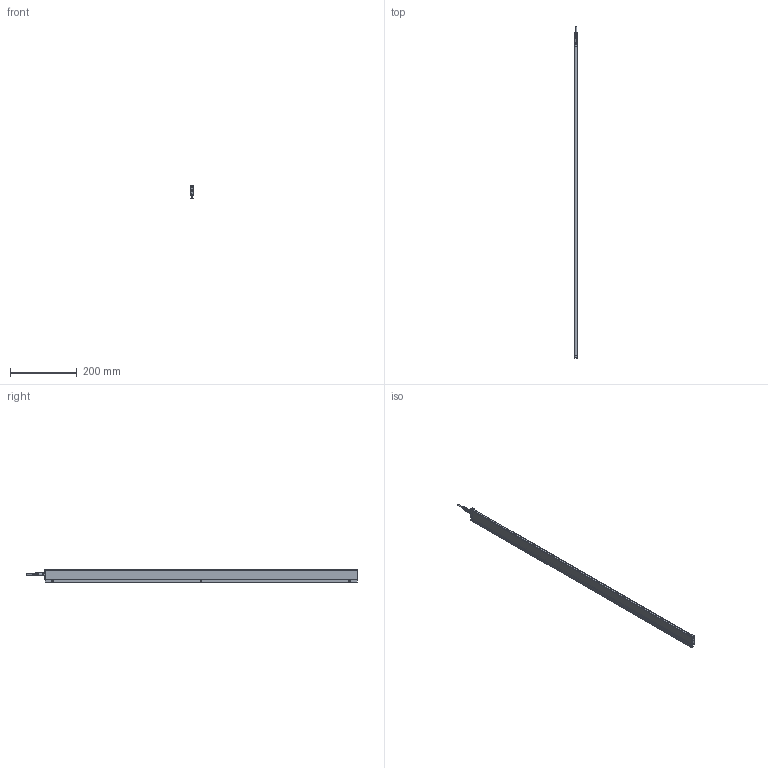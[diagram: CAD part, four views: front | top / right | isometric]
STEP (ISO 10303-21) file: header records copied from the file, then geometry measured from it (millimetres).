
FILE_DESCRIPTION (( 'STEP AP214' ), '1' );
FILE_NAME ('ILG-L-K2-0940mm.STEP', '2017-07-11T08:00:08', ( '' ), ( '' ), 'SwSTEP 2.0', 'SolidWorks 2016', '' );
FILE_SCHEMA (( 'AUTOMOTIVE_DESIGN' ));
Length unit declared in the file: millimetre
Products named in the file (1): ILG-L-K2-0940mm
Bounding box: 9 x 994.5 x 40.71 mm (x, y, z)
Surface area: 188436.7 mm2 (no closed solid volume)
Topology: 0 solids, 13 shells, 679 faces, 1780 edges, 1131 vertices
Faces by surface type: cylinder 286, plane 255, cone 90, bspline 32, torus 16
Entity records: 30532 total; most frequent: CARTESIAN_POINT 6477, ORIENTED_EDGE 3513, DIRECTION 3392, EDGE_CURVE 1764, AXIS2_PLACEMENT_3D 1295, VERTEX_POINT 1131, LINE 802, VECTOR 802
